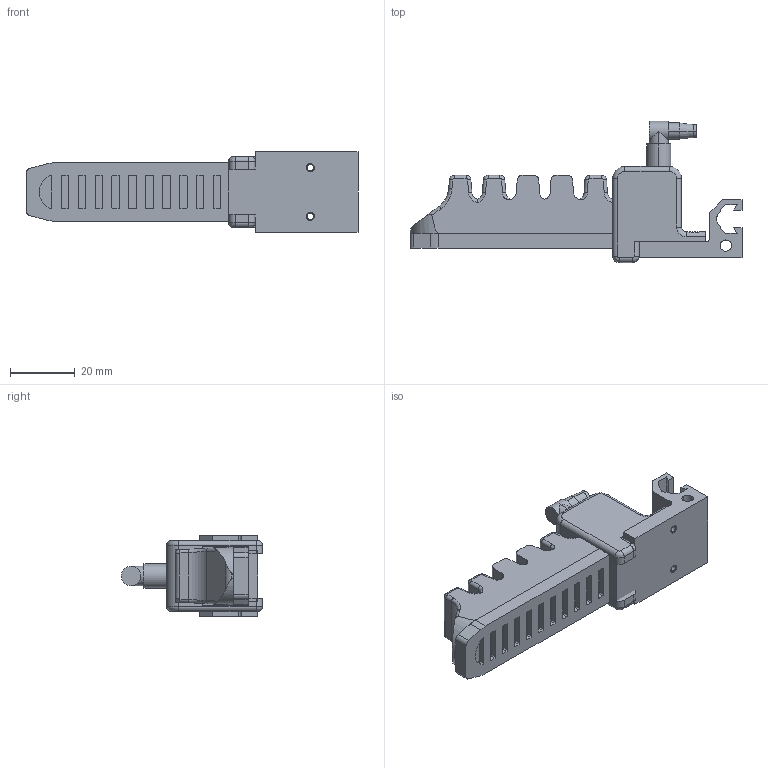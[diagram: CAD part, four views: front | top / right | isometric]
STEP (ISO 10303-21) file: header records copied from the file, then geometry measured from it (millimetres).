
FILE_DESCRIPTION (( 'STEP AP214' ), '1' );
FILE_NAME ('GFM-B6V5.STEP', '2019-12-04T03:42:03', ( '微软用户' ), ( '微软中国' ), 'SwSTEP 2.0', 'SolidWorks 2016', '' );
FILE_SCHEMA (( 'AUTOMOTIVE_DESIGN' ));
Length unit declared in the file: millimetre
Products named in the file (1): GFM-B6V5
Bounding box: 102.83 x 43.75 x 25 mm (x, y, z)
Volume: 36479 mm3; surface area: 17557.6 mm2
Topology: 4 solids, 4 shells, 346 faces, 877 edges, 552 vertices
Faces by surface type: cylinder 157, plane 137, bspline 32, cone 14, torus 6
Entity records: 16020 total; most frequent: CARTESIAN_POINT 4016, ORIENTED_EDGE 1754, DIRECTION 1661, EDGE_CURVE 877, AXIS2_PLACEMENT_3D 587, VERTEX_POINT 552, LINE 487, VECTOR 487
